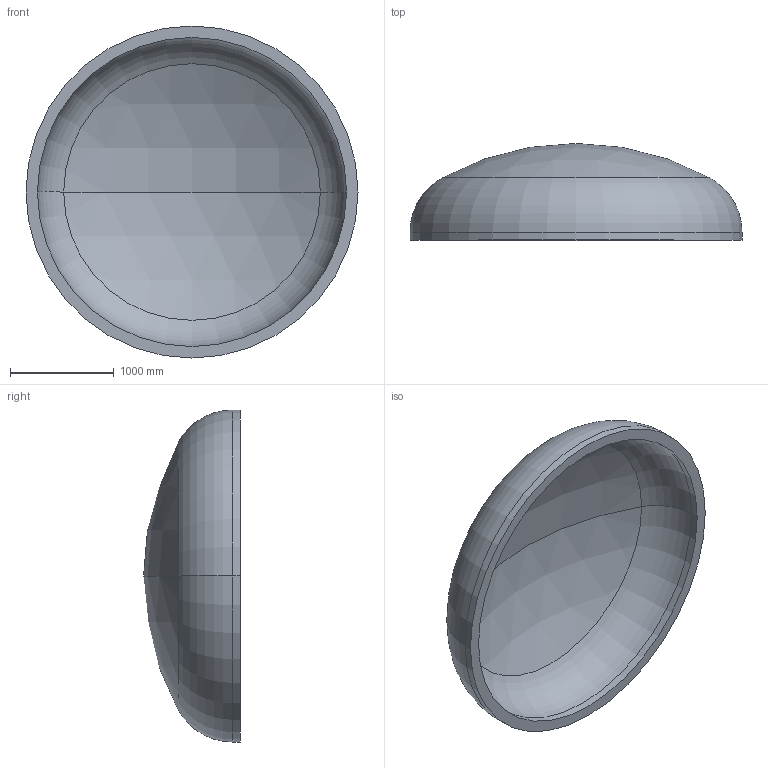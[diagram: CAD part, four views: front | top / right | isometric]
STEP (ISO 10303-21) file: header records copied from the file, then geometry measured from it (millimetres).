
FILE_DESCRIPTION (( 'STEP AP203' ), '1' );
FILE_NAME ('DIN 28013 Korbbogenform_-_Boden DIN 28013 - 3200 x 75 - I - s=110.step', '2016-07-01T19:01:32', ( '' ), ( '' ), 'SwSTEP 2.0', 'SolidWorks 2013', '' );
FILE_SCHEMA (( 'CONFIG_CONTROL_DESIGN' ));
Length unit declared in the file: millimetre
Products named in the file (1): DIN 28013 Korbbogenform_-_Boden DIN 28013 - 3200 x 75 - I - s=110
Bounding box: 3200 x 932.57 x 3200 mm (x, y, z)
Volume: 1250384734.4 mm3; surface area: 23827429.9 mm2
Topology: 1 solids, 1 shells, 13 faces, 24 edges, 14 vertices
Faces by surface type: torus 4, cylinder 4, sphere 4, plane 1
Entity records: 407 total; most frequent: DIRECTION 72, CARTESIAN_POINT 52, ORIENTED_EDGE 48, AXIS2_PLACEMENT_3D 34, EDGE_CURVE 24, CIRCLE 20, EDGE_LOOP 14, VERTEX_POINT 14
